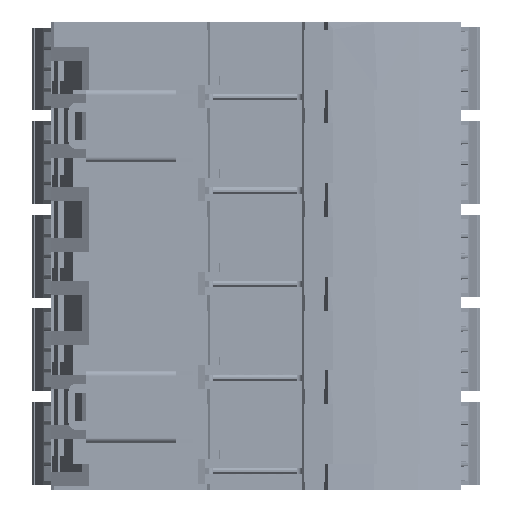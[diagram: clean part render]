
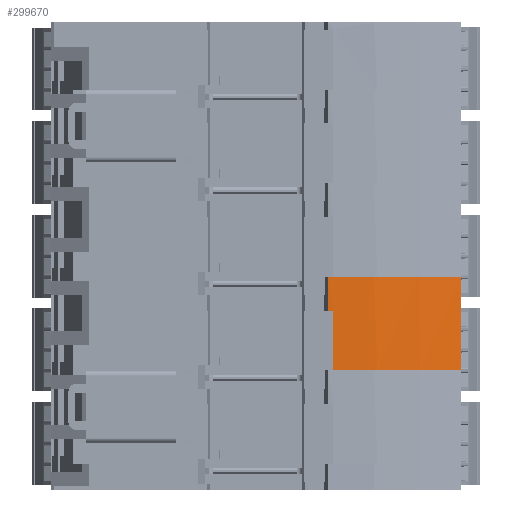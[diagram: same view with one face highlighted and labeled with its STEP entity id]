
A CAD part, front view. The second image highlights one B-rep face of the part: STEP entity #299670.
In plain terms, the highlighted cylindrical face has radius 80 mm (diameter 160 mm), a partial arc.
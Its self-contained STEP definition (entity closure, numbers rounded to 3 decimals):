
#299090=CARTESIAN_POINT('',(10.293,65.8,
-14.585));
#299100=DIRECTION('',(1.,0.,0.));
#299110=DIRECTION('',(0.,0.,-1.));
#299120=AXIS2_PLACEMENT_3D('',#299090,#299100,#299110);
#299130=CYLINDRICAL_SURFACE('',#299120,80.);
#299140=CARTESIAN_POINT('',(10.293,-5.642,
-50.585));
#299150=DIRECTION('',(1.,0.,0.));
#299160=VECTOR('',#299150,1.);
#299170=LINE('',#299140,#299160);
#299180=CARTESIAN_POINT('',(-7.257,-5.642,
-50.585));
#299190=VERTEX_POINT('',#299180);
#299200=CARTESIAN_POINT('',(15.343,-5.642,
-50.585));
#299210=VERTEX_POINT('',#299200);
#299220=EDGE_CURVE('',#299190,#299210,#299170,.T.);
#299230=ORIENTED_EDGE('',*,*,#299220,.T.);
#299240=CARTESIAN_POINT('',(-7.257,65.8,
-14.585));
#299250=DIRECTION('',(1.,0.,0.));
#299260=DIRECTION('',(0.,0.,-1.));
#299270=AXIS2_PLACEMENT_3D('',#299240,#299250,#299260);
#299280=CIRCLE('',#299270,80.);
#299290=CARTESIAN_POINT('',(-7.257,-14.031,
-19.785));
#299300=VERTEX_POINT('',#299290);
#299310=EDGE_CURVE('',#299300,#299190,#299280,.T.);
#299320=ORIENTED_EDGE('',*,*,#299310,.T.);
#299330=CARTESIAN_POINT('',(10.293,-14.031,
-19.785));
#299340=DIRECTION('',(1.,0.,0.));
#299350=VECTOR('',#299340,1.);
#299360=LINE('',#299330,#299350);
#299370=CARTESIAN_POINT('',(7.143,-14.031,
-19.785));
#299380=VERTEX_POINT('',#299370);
#299390=EDGE_CURVE('',#299300,#299380,#299360,.T.);
#299400=ORIENTED_EDGE('',*,*,#299390,.F.);
#299410=CARTESIAN_POINT('',(7.143,65.8,
-14.585));
#299420=DIRECTION('',(1.,0.,0.));
#299430=DIRECTION('',(0.,0.,-1.));
#299440=AXIS2_PLACEMENT_3D('',#299410,#299420,#299430);
#299450=CIRCLE('',#299440,80.);
#299460=CARTESIAN_POINT('',(7.143,-14.105,
-18.49));
#299470=VERTEX_POINT('',#299460);
#299480=EDGE_CURVE('',#299470,#299380,#299450,.T.);
#299490=ORIENTED_EDGE('',*,*,#299480,.T.);
#299500=CARTESIAN_POINT('',(10.293,-14.105,
-18.49));
#299510=DIRECTION('',(1.,0.,0.));
#299520=VECTOR('',#299510,1.);
#299530=LINE('',#299500,#299520);
#299540=CARTESIAN_POINT('',(15.343,-14.105,
-18.49));
#299550=VERTEX_POINT('',#299540);
#299560=EDGE_CURVE('',#299470,#299550,#299530,.T.);
#299570=ORIENTED_EDGE('',*,*,#299560,.F.);
#299580=CARTESIAN_POINT('',(15.343,65.8,
-14.585));
#299590=DIRECTION('',(1.,0.,0.));
#299600=DIRECTION('',(0.,0.,-1.));
#299610=AXIS2_PLACEMENT_3D('',#299580,#299590,#299600);
#299620=CIRCLE('',#299610,80.);
#299630=EDGE_CURVE('',#299550,#299210,#299620,.T.);
#299640=ORIENTED_EDGE('',*,*,#299630,.F.);
#299650=EDGE_LOOP('',(#299640,#299570,#299490,#299400,#299320,#299230));
#299660=FACE_OUTER_BOUND('',#299650,.T.);
#299670=ADVANCED_FACE('',(#299660),#299130,.T.);
